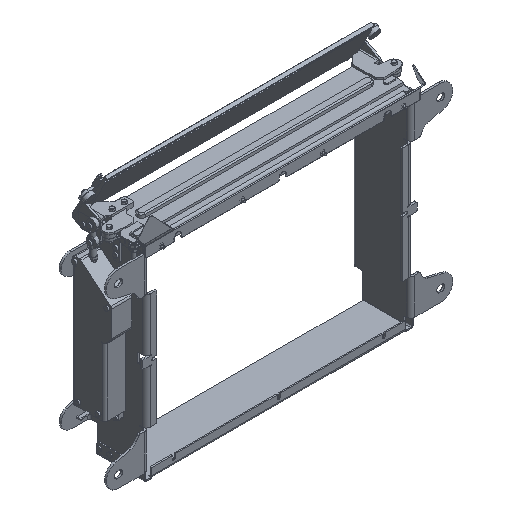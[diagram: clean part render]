
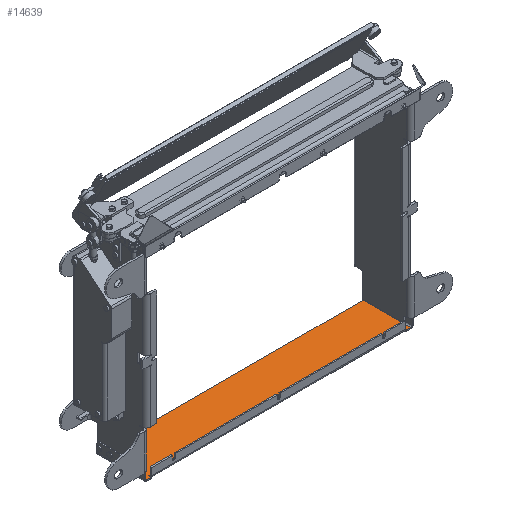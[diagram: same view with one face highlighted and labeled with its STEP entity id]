
A CAD part, isometric view. The second image highlights one B-rep face of the part: STEP entity #14639.
In plain terms, the highlighted planar face has unit normal (0, 0, 1).
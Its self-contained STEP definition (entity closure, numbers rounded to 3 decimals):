
#1101 = ORIENTED_EDGE ( 'NONE', *, *, #30949, .F. ) ;
#2198 = CARTESIAN_POINT ( 'NONE',  ( -163.5, 4., -243.5 ) ) ;
#3498 = VERTEX_POINT ( 'NONE', #20128 ) ;
#3522 = CARTESIAN_POINT ( 'NONE',  ( 163.5, 4., -243.5 ) ) ;
#3838 = CIRCLE ( 'NONE', #4763, 0.25 ) ;
#4013 = VERTEX_POINT ( 'NONE', #33450 ) ;
#4115 = VERTEX_POINT ( 'NONE', #29664 ) ;
#4274 = EDGE_CURVE ( 'NONE', #35838, #37846, #32108, .T. ) ;
#4643 = LINE ( 'NONE', #17366, #15128 ) ;
#4763 = AXIS2_PLACEMENT_3D ( 'NONE', #23019, #32639, #42435 ) ;
#4991 = EDGE_CURVE ( 'NONE', #16008, #4115, #57346, .T. ) ;
#5263 = EDGE_CURVE ( 'NONE', #35377, #26542, #29730, .T. ) ;
#5598 = ORIENTED_EDGE ( 'NONE', *, *, #57145, .F. ) ;
#8416 = VERTEX_POINT ( 'NONE', #39536 ) ;
#9098 = ORIENTED_EDGE ( 'NONE', *, *, #44379, .F. ) ;
#10323 = CARTESIAN_POINT ( 'NONE',  ( -158.5, 4.5, -243.5 ) ) ;
#10370 = VECTOR ( 'NONE', #17644, 1000. ) ;
#10992 = PLANE ( 'NONE',  #16715 ) ;
#11108 = CIRCLE ( 'NONE', #42875, 0.25 ) ;
#11688 = DIRECTION ( 'NONE',  ( 0., -1., 0. ) ) ;
#12113 = CARTESIAN_POINT ( 'NONE',  ( -157.5, 7., -243.5 ) ) ;
#12658 = CARTESIAN_POINT ( 'NONE',  ( 161.5, 4., -243.5 ) ) ;
#13062 = VERTEX_POINT ( 'NONE', #42759 ) ;
#14639 = ADVANCED_FACE ( 'NONE', ( #40573 ), #10992, .F. ) ;
#15118 = DIRECTION ( 'NONE',  ( 0., 0., 1. ) ) ;
#15128 = VECTOR ( 'NONE', #26140, 1000. ) ;
#15384 = CARTESIAN_POINT ( 'NONE',  ( 0., 4., -243.5 ) ) ;
#15565 = LINE ( 'NONE', #51976, #35721 ) ;
#15851 = ORIENTED_EDGE ( 'NONE', *, *, #35584, .F. ) ;
#16008 = VERTEX_POINT ( 'NONE', #40942 ) ;
#16225 = EDGE_CURVE ( 'NONE', #13062, #35377, #53802, .T. ) ;
#16592 = DIRECTION ( 'NONE',  ( 0., 1., 0. ) ) ;
#16649 = DIRECTION ( 'NONE',  ( -1., 0., 0. ) ) ;
#16715 = AXIS2_PLACEMENT_3D ( 'NONE', #15384, #48746, #44368 ) ;
#17366 = CARTESIAN_POINT ( 'NONE',  ( 158., 4., -243.5 ) ) ;
#17644 = DIRECTION ( 'NONE',  ( -1., 0., 0. ) ) ;
#18994 = DIRECTION ( 'NONE',  ( -1., 0., 0. ) ) ;
#19269 = EDGE_CURVE ( 'NONE', #33473, #4013, #25796, .T. ) ;
#20128 = CARTESIAN_POINT ( 'NONE',  ( -163.5, 4., -243.5 ) ) ;
#20286 = ORIENTED_EDGE ( 'NONE', *, *, #49471, .F. ) ;
#20887 = CARTESIAN_POINT ( 'NONE',  ( -158., 7.5, -243.5 ) ) ;
#23019 = CARTESIAN_POINT ( 'NONE',  ( 157.75, 7.5, -243.5 ) ) ;
#23904 = DIRECTION ( 'NONE',  ( 0., -1., 0. ) ) ;
#23911 = LINE ( 'NONE', #43200, #37400 ) ;
#24916 = EDGE_CURVE ( 'NONE', #4115, #43267, #15565, .T. ) ;
#25424 = CARTESIAN_POINT ( 'NONE',  ( 158.5, 4.5, -243.5 ) ) ;
#25796 = CIRCLE ( 'NONE', #28141, 0.5 ) ;
#26140 = DIRECTION ( 'NONE',  ( 0., 1., 0. ) ) ;
#26542 = VERTEX_POINT ( 'NONE', #3522 ) ;
#27494 = VECTOR ( 'NONE', #23904, 1000. ) ;
#27764 = CARTESIAN_POINT ( 'NONE',  ( -158., 4.5, -243.5 ) ) ;
#27866 = VECTOR ( 'NONE', #43740, 1000. ) ;
#28066 = ORIENTED_EDGE ( 'NONE', *, *, #24916, .F. ) ;
#28141 = AXIS2_PLACEMENT_3D ( 'NONE', #25424, #44817, #16649 ) ;
#28943 = CARTESIAN_POINT ( 'NONE',  ( 157.5, 7.5, -243.5 ) ) ;
#29595 = VERTEX_POINT ( 'NONE', #46324 ) ;
#29623 = ORIENTED_EDGE ( 'NONE', *, *, #19269, .T. ) ;
#29664 = CARTESIAN_POINT ( 'NONE',  ( 157.5, 7., -243.5 ) ) ;
#29730 = LINE ( 'NONE', #31588, #57287 ) ;
#30085 = CARTESIAN_POINT ( 'NONE',  ( -158., 7.5, -243.5 ) ) ;
#30949 = EDGE_CURVE ( 'NONE', #26542, #4013, #23911, .T. ) ;
#31588 = CARTESIAN_POINT ( 'NONE',  ( 163.5, 63., -243.5 ) ) ;
#31830 = EDGE_CURVE ( 'NONE', #3498, #13062, #48524, .T. ) ;
#32083 = ORIENTED_EDGE ( 'NONE', *, *, #46515, .F. ) ;
#32108 = LINE ( 'NONE', #20887, #32849 ) ;
#32639 = DIRECTION ( 'NONE',  ( 0., 0., 1. ) ) ;
#32849 = VECTOR ( 'NONE', #11688, 1000. ) ;
#33197 = CARTESIAN_POINT ( 'NONE',  ( 161.5, 63., -243.5 ) ) ;
#33410 = DIRECTION ( 'NONE',  ( 1., 0., 0. ) ) ;
#33450 = CARTESIAN_POINT ( 'NONE',  ( 158.5, 4., -243.5 ) ) ;
#33473 = VERTEX_POINT ( 'NONE', #54745 ) ;
#35160 = DIRECTION ( 'NONE',  ( 1., 0., 0. ) ) ;
#35265 = AXIS2_PLACEMENT_3D ( 'NONE', #10323, #15118, #53475 ) ;
#35377 = VERTEX_POINT ( 'NONE', #39967 ) ;
#35584 = EDGE_CURVE ( 'NONE', #29595, #16008, #3838, .T. ) ;
#35721 = VECTOR ( 'NONE', #38217, 1000. ) ;
#35838 = VERTEX_POINT ( 'NONE', #30085 ) ;
#37237 = LINE ( 'NONE', #12658, #10370 ) ;
#37400 = VECTOR ( 'NONE', #18994, 1000. ) ;
#37846 = VERTEX_POINT ( 'NONE', #27764 ) ;
#38217 = DIRECTION ( 'NONE',  ( -1., 0., 0. ) ) ;
#39536 = CARTESIAN_POINT ( 'NONE',  ( -157.5, 7.5, -243.5 ) ) ;
#39741 = CARTESIAN_POINT ( 'NONE',  ( -157.75, 7.5, -243.5 ) ) ;
#39967 = CARTESIAN_POINT ( 'NONE',  ( 163.5, 63., -243.5 ) ) ;
#40573 = FACE_OUTER_BOUND ( 'NONE', #48191, .T. ) ;
#40942 = CARTESIAN_POINT ( 'NONE',  ( 157.5, 7.5, -243.5 ) ) ;
#41582 = DIRECTION ( 'NONE',  ( 0., -1., 0. ) ) ;
#42435 = DIRECTION ( 'NONE',  ( 1., 0., 0. ) ) ;
#42759 = CARTESIAN_POINT ( 'NONE',  ( -163.5, 63., -243.5 ) ) ;
#42875 = AXIS2_PLACEMENT_3D ( 'NONE', #39741, #44744, #35160 ) ;
#43200 = CARTESIAN_POINT ( 'NONE',  ( 161.5, 4., -243.5 ) ) ;
#43267 = VERTEX_POINT ( 'NONE', #12113 ) ;
#43740 = DIRECTION ( 'NONE',  ( 0., 1., 0. ) ) ;
#43945 = CARTESIAN_POINT ( 'NONE',  ( -157.5, 7., -243.5 ) ) ;
#44123 = ORIENTED_EDGE ( 'NONE', *, *, #5263, .F. ) ;
#44368 = DIRECTION ( 'NONE',  ( -1., 0., 0. ) ) ;
#44379 = EDGE_CURVE ( 'NONE', #33473, #29595, #4643, .T. ) ;
#44744 = DIRECTION ( 'NONE',  ( 0., 0., 1. ) ) ;
#44817 = DIRECTION ( 'NONE',  ( 0., 0., 1. ) ) ;
#45744 = LINE ( 'NONE', #43945, #27866 ) ;
#46087 = CARTESIAN_POINT ( 'NONE',  ( -158.5, 4., -243.5 ) ) ;
#46111 = ORIENTED_EDGE ( 'NONE', *, *, #55180, .T. ) ;
#46324 = CARTESIAN_POINT ( 'NONE',  ( 158., 7.5, -243.5 ) ) ;
#46515 = EDGE_CURVE ( 'NONE', #8416, #35838, #11108, .T. ) ;
#47367 = ORIENTED_EDGE ( 'NONE', *, *, #4991, .F. ) ;
#48191 = EDGE_LOOP ( 'NONE', ( #20286, #46111, #49644, #32083, #5598, #28066, #47367, #15851, #9098, #29623, #1101, #44123, #53282, #50834 ) ) ;
#48524 = LINE ( 'NONE', #2198, #50024 ) ;
#48613 = VECTOR ( 'NONE', #33410, 1000. ) ;
#48746 = DIRECTION ( 'NONE',  ( 0., 0., -1. ) ) ;
#49471 = EDGE_CURVE ( 'NONE', #60298, #3498, #37237, .T. ) ;
#49632 = CIRCLE ( 'NONE', #35265, 0.5 ) ;
#49644 = ORIENTED_EDGE ( 'NONE', *, *, #4274, .F. ) ;
#50024 = VECTOR ( 'NONE', #16592, 1000. ) ;
#50834 = ORIENTED_EDGE ( 'NONE', *, *, #31830, .F. ) ;
#51976 = CARTESIAN_POINT ( 'NONE',  ( 157.5, 7., -243.5 ) ) ;
#53282 = ORIENTED_EDGE ( 'NONE', *, *, #16225, .F. ) ;
#53475 = DIRECTION ( 'NONE',  ( -1., 0., 0. ) ) ;
#53802 = LINE ( 'NONE', #33197, #48613 ) ;
#54745 = CARTESIAN_POINT ( 'NONE',  ( 158., 4.5, -243.5 ) ) ;
#55180 = EDGE_CURVE ( 'NONE', #60298, #37846, #49632, .T. ) ;
#57145 = EDGE_CURVE ( 'NONE', #43267, #8416, #45744, .T. ) ;
#57287 = VECTOR ( 'NONE', #41582, 1000. ) ;
#57346 = LINE ( 'NONE', #28943, #27494 ) ;
#60298 = VERTEX_POINT ( 'NONE', #46087 ) ;
